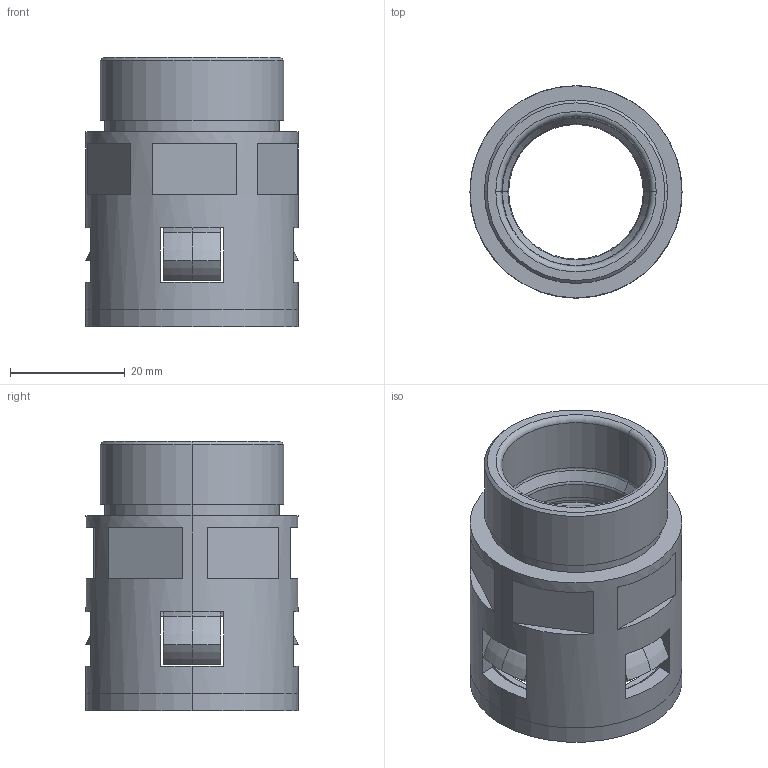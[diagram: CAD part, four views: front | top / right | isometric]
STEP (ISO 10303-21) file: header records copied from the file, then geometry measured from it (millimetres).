
FILE_DESCRIPTION (( 'STEP AP203' ), '1' );
FILE_NAME ('WQG-M32-AD28.5.STEP', '2013-02-18T07:23:01', ( 'User' ), ( 'Microsoft' ), 'SwSTEP 2.0', 'SolidWorks 2010', '' );
FILE_SCHEMA (( 'CONFIG_CONTROL_DESIGN' ));
Length unit declared in the file: millimetre
Products named in the file (4): GFD-AD28.5; WQG-M32-AD28.5; NSK-AD28.5; WQG-M32-AD28.5-01
Assembly tree (3 placements, depth 2):
  WQG-M32-AD28.5
    WQG-M32-AD28.5-01
    NSK-AD28.5
    GFD-AD28.5
Bounding box: 37 x 37 x 47 mm (x, y, z)
Volume: 15899.7 mm3; surface area: 17770.5 mm2
Topology: 3 solids, 3 shells, 185 faces, 474 edges, 298 vertices
Faces by surface type: plane 87, cone 36, torus 32, cylinder 30
Entity records: 6224 total; most frequent: CARTESIAN_POINT 1107, DIRECTION 1078, ORIENTED_EDGE 948, EDGE_CURVE 474, AXIS2_PLACEMENT_3D 429, VERTEX_POINT 298, CIRCLE 238, LINE 220
